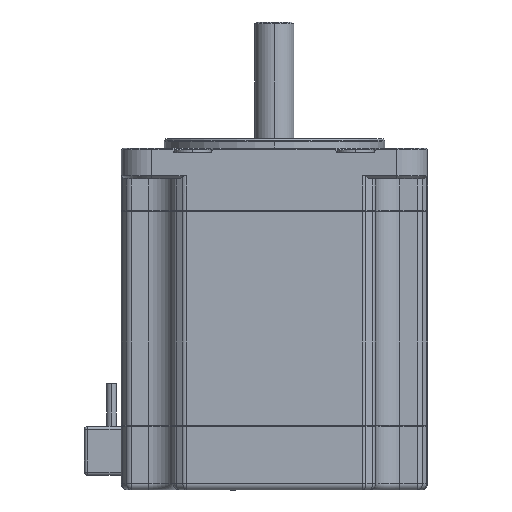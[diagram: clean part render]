
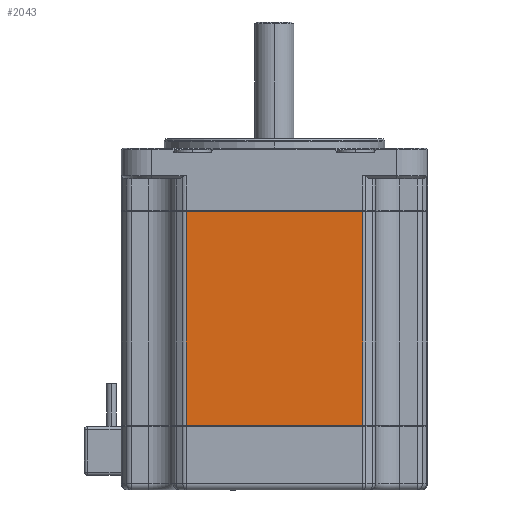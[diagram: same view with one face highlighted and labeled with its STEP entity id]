
A CAD part, left-side view. The second image highlights one B-rep face of the part: STEP entity #2043.
In plain terms, the highlighted planar face has unit normal (-1, 0, 0).
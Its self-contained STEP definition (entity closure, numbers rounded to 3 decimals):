
#1775 = VECTOR ( 'NONE', #16564, 1000. ) ;
#1776 = VECTOR ( 'NONE', #16570, 1000. ) ;
#1778 = VECTOR ( 'NONE', #16573, 1000. ) ;
#1780 = VECTOR ( 'NONE', #16576, 1000. ) ;
#2043 = ADVANCED_FACE ( 'NONE', ( #4995 ), #7436, .F. ) ;
#3213 = EDGE_CURVE ( 'NONE', #16615, #16616, #16562, .T. ) ;
#3215 = EDGE_CURVE ( 'NONE', #16617, #16615, #16568, .T. ) ;
#3216 = EDGE_CURVE ( 'NONE', #16617, #16618, #16571, .T. ) ;
#3217 = EDGE_CURVE ( 'NONE', #16616, #16618, #16574, .T. ) ;
#4995 = FACE_OUTER_BOUND ( 'NONE', #14013, .T. ) ;
#5000 = AXIS2_PLACEMENT_3D ( 'NONE', #7437, #7438, #7439 ) ;
#6261 = ORIENTED_EDGE ( 'NONE', *, *, #3217, .T. ) ;
#6262 = ORIENTED_EDGE ( 'NONE', *, *, #3215, .T. ) ;
#6263 = ORIENTED_EDGE ( 'NONE', *, *, #3213, .T. ) ;
#6264 = ORIENTED_EDGE ( 'NONE', *, *, #3216, .F. ) ;
#7436 = PLANE ( 'NONE',  #5000 ) ;
#7437 = CARTESIAN_POINT ( 'NONE',  ( -25., 14.422, -45.4 ) ) ;
#7438 = DIRECTION ( 'NONE',  ( 1., 0., 0. ) ) ;
#7439 = DIRECTION ( 'NONE',  ( 0., 1., 0. ) ) ;
#12465 = CARTESIAN_POINT ( 'NONE',  ( -25., -14.422, -45.2 ) ) ;
#12466 = CARTESIAN_POINT ( 'NONE',  ( -25., -14.422, -10.4 ) ) ;
#12467 = CARTESIAN_POINT ( 'NONE',  ( -25., 14.422, -45.2 ) ) ;
#12468 = CARTESIAN_POINT ( 'NONE',  ( -25., 14.422, -10.4 ) ) ;
#14013 = EDGE_LOOP ( 'NONE', ( #6264, #6262, #6263, #6261 ) ) ;
#16562 = LINE ( 'NONE', #16563, #1775 ) ;
#16563 = CARTESIAN_POINT ( 'NONE',  ( -25., -14.422, -45.4 ) ) ;
#16564 = DIRECTION ( 'NONE',  ( 0., 0., 1. ) ) ;
#16568 = LINE ( 'NONE', #16569, #1776 ) ;
#16569 = CARTESIAN_POINT ( 'NONE',  ( -25., -14.422, -45.2 ) ) ;
#16570 = DIRECTION ( 'NONE',  ( 0., -1., 0. ) ) ;
#16571 = LINE ( 'NONE', #16572, #1778 ) ;
#16572 = CARTESIAN_POINT ( 'NONE',  ( -25., 14.422, -45.4 ) ) ;
#16573 = DIRECTION ( 'NONE',  ( 0., 0., 1. ) ) ;
#16574 = LINE ( 'NONE', #16575, #1780 ) ;
#16575 = CARTESIAN_POINT ( 'NONE',  ( -25., 14.422, -10.4 ) ) ;
#16576 = DIRECTION ( 'NONE',  ( 0., 1., 0. ) ) ;
#16615 = VERTEX_POINT ( 'NONE', #12465 ) ;
#16616 = VERTEX_POINT ( 'NONE', #12466 ) ;
#16617 = VERTEX_POINT ( 'NONE', #12467 ) ;
#16618 = VERTEX_POINT ( 'NONE', #12468 ) ;
